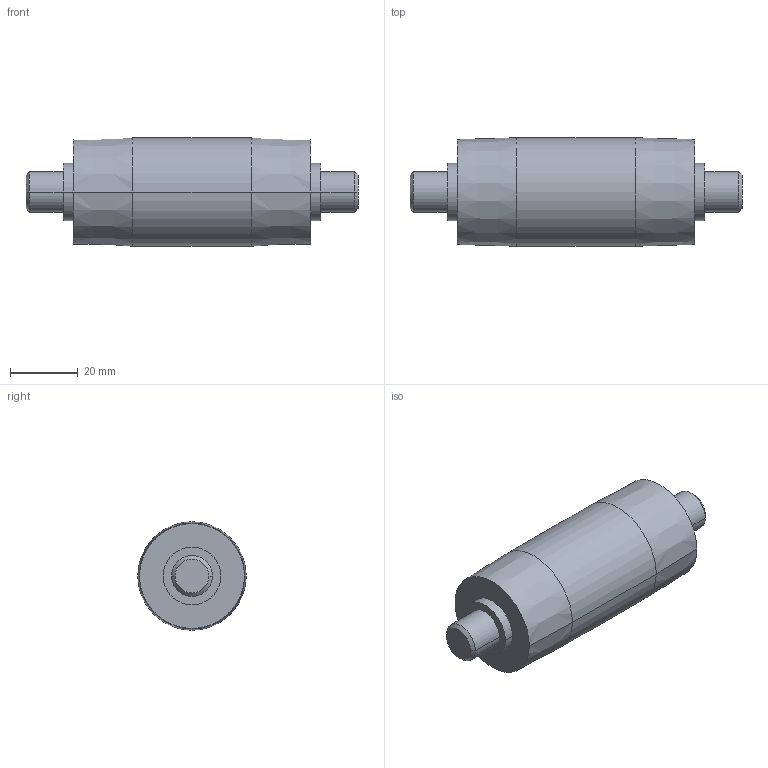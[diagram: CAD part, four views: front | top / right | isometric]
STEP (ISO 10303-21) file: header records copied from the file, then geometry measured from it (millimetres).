
FILE_DESCRIPTION (( 'STEP AP214' ), '1' );
FILE_NAME ('084.030.129.STEP', '2021-02-05T15:41:15', ( '' ), ( '' ), 'SwSTEP 2.0', 'SolidWorks 2018', '' );
FILE_SCHEMA (( 'AUTOMOTIVE_DESIGN' ));
Length unit declared in the file: millimetre
Products named in the file (1): 084.030.129
Bounding box: 98 x 32 x 32 mm (x, y, z)
Volume: 59241.3 mm3; surface area: 9596.2 mm2
Topology: 1 solids, 1 shells, 24 faces, 46 edges, 28 vertices
Faces by surface type: cylinder 10, cone 8, plane 6
Entity records: 648 total; most frequent: DIRECTION 124, CARTESIAN_POINT 99, ORIENTED_EDGE 92, AXIS2_PLACEMENT_3D 53, EDGE_CURVE 46, CIRCLE 28, VERTEX_POINT 28, EDGE_LOOP 28
